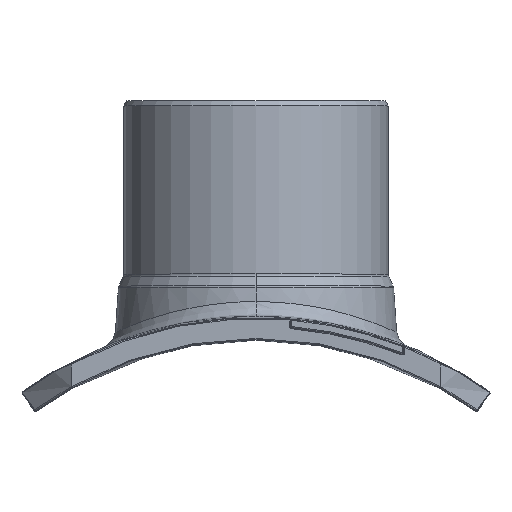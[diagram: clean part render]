
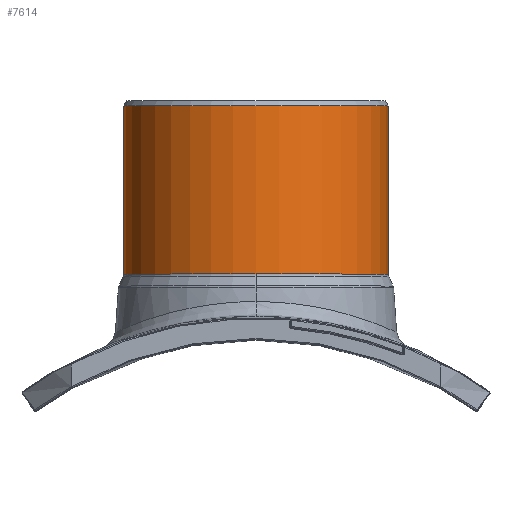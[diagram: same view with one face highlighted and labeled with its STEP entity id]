
A CAD part, top view. The second image highlights one B-rep face of the part: STEP entity #7614.
In plain terms, the highlighted cylindrical face has radius 125 mm (diameter 250 mm), a partial arc.
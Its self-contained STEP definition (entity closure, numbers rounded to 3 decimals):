
#1539=CARTESIAN_POINT('',(0.,417.083,0.));
#1540=DIRECTION('',(0.,-1.,0.));
#1541=DIRECTION('',(1.,0.,0.));
#1542=AXIS2_PLACEMENT_3D('',#1539,#1540,#1541);
#1547=CARTESIAN_POINT('',(0.,417.083,0.));
#1548=DIRECTION('',(0.,-1.,0.));
#1549=DIRECTION('',(0.,0.,1.));
#1550=AXIS2_PLACEMENT_3D('',#1547,#1548,#1549);
#1555=DIRECTION('',(0.,-1.,0.));
#1556=VECTOR('',#1555,158.917);
#1557=CARTESIAN_POINT('',(-125.,576.,0.));
#1558=LINE('151588',#1557,#1556);
#1562=DIRECTION('',(0.,-1.,0.));
#1563=VECTOR('',#1562,158.917);
#1564=CARTESIAN_POINT('',(125.,576.,0.));
#1565=LINE('151587',#1564,#1563);
#1616=CARTESIAN_POINT('',(0.,576.,0.));
#1617=DIRECTION('',(0.,1.,0.));
#1618=DIRECTION('',(-1.,0.,0.));
#1619=AXIS2_PLACEMENT_3D('',#1616,#1617,#1618);
#6026=CARTESIAN_POINT('',(125.,576.,0.));
#6027=CARTESIAN_POINT('',(-125.,576.,0.));
#6028=VERTEX_POINT('',#6026);
#6029=VERTEX_POINT('',#6027);
#6050=CARTESIAN_POINT('',(125.,417.083,0.));
#6051=CARTESIAN_POINT('',(0.,417.083,125.));
#6052=VERTEX_POINT('',#6050);
#6053=VERTEX_POINT('',#6051);
#6054=CARTESIAN_POINT('',(-125.,417.083,0.));
#6055=VERTEX_POINT('',#6054);
#7599=CARTESIAN_POINT('',(0.,581.,0.));
#7600=DIRECTION('',(0.,1.,0.));
#7601=DIRECTION('',(1.,0.,0.));
#7602=AXIS2_PLACEMENT_3D('',#7599,#7600,#7601);
#7603=CYLINDRICAL_SURFACE('4584',#7602,125.);
#7604=ORIENTED_EDGE('151579',*,*,#7576,.T.);
#7605=ORIENTED_EDGE('151581',*,*,#7591,.T.);
#7607=ORIENTED_EDGE('151588',*,*,#7606,.F.);
#7609=ORIENTED_EDGE('4600',*,*,#7608,.T.);
#7611=ORIENTED_EDGE('151587',*,*,#7610,.T.);
#7612=EDGE_LOOP('4584',(#7604,#7605,#7607,#7609,#7611));
#7613=FACE_OUTER_BOUND('4584',#7612,.F.);
#1543=CIRCLE('151579',#1542,125.);
#1551=CIRCLE('151581',#1550,125.);
#1620=CIRCLE('4600',#1619,125.);
#7576=EDGE_CURVE('151579',#6052,#6053,#1543,.T.);
#7591=EDGE_CURVE('151581',#6053,#6055,#1551,.T.);
#7606=EDGE_CURVE('151588',#6029,#6055,#1558,.T.);
#7608=EDGE_CURVE('4600',#6029,#6028,#1620,.T.);
#7610=EDGE_CURVE('151587',#6028,#6052,#1565,.T.);
#7614=ADVANCED_FACE('4584',(#7613),#7603,.T.);
